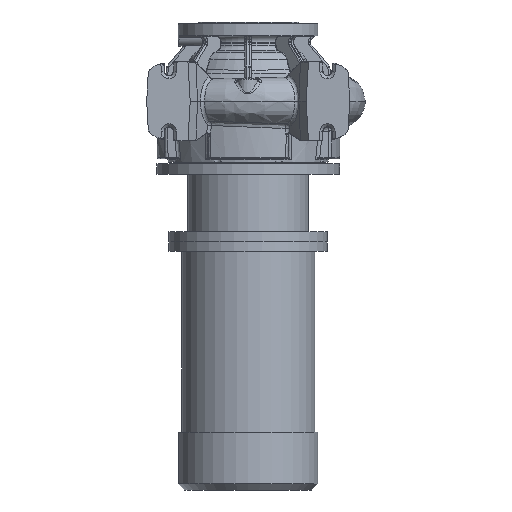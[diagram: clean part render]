
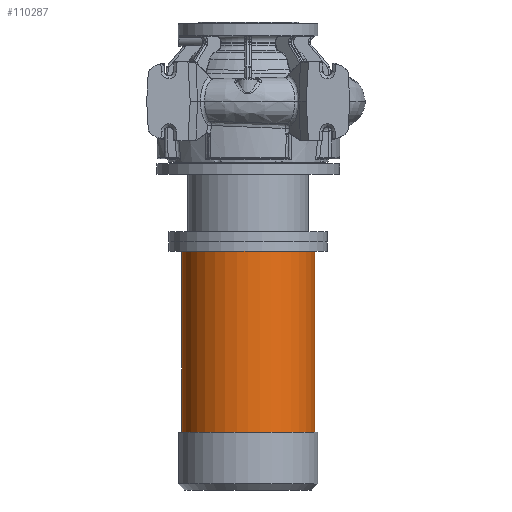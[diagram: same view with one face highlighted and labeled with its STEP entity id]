
A CAD part, front view. The second image highlights one B-rep face of the part: STEP entity #110287.
In plain terms, the highlighted cylindrical face has radius 105 mm (diameter 210 mm), a partial arc.
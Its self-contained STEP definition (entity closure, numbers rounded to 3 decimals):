
#7973 = ORIENTED_EDGE ( 'NONE', *, *, #109300, .F. ) ;
#8858 = CARTESIAN_POINT ( 'NONE',  ( 0., 0., -612.8 ) ) ;
#13412 = CARTESIAN_POINT ( 'NONE',  ( 105., 0., -521.8 ) ) ;
#15878 = CARTESIAN_POINT ( 'NONE',  ( 105., 0., -236.8 ) ) ;
#15988 = DIRECTION ( 'NONE',  ( 0., 0., -1. ) ) ;
#21791 = CARTESIAN_POINT ( 'NONE',  ( -105., 0., -236.8 ) ) ;
#23863 = VERTEX_POINT ( 'NONE', #21791 ) ;
#24425 = ORIENTED_EDGE ( 'NONE', *, *, #24589, .T. ) ;
#24589 = EDGE_CURVE ( 'NONE', #23863, #53376, #32461, .T. ) ;
#30068 = AXIS2_PLACEMENT_3D ( 'NONE', #44868, #104265, #95631 ) ;
#32461 = LINE ( 'NONE', #110362, #56750 ) ;
#33990 = DIRECTION ( 'NONE',  ( 0., 0., -1. ) ) ;
#34284 = VERTEX_POINT ( 'NONE', #15878 ) ;
#37495 = DIRECTION ( 'NONE',  ( -1., 0., 0. ) ) ;
#42496 = ORIENTED_EDGE ( 'NONE', *, *, #45668, .T. ) ;
#44868 = CARTESIAN_POINT ( 'NONE',  ( 0., 0., -521.8 ) ) ;
#45668 = EDGE_CURVE ( 'NONE', #34284, #23863, #79520, .T. ) ;
#45880 = ORIENTED_EDGE ( 'NONE', *, *, #100132, .F. ) ;
#47117 = VECTOR ( 'NONE', #15988, 1000. ) ;
#51991 = AXIS2_PLACEMENT_3D ( 'NONE', #54550, #71770, #37495 ) ;
#53376 = VERTEX_POINT ( 'NONE', #104199 ) ;
#53398 = DIRECTION ( 'NONE',  ( -1., 0., 0. ) ) ;
#54550 = CARTESIAN_POINT ( 'NONE',  ( 0., 0., -236.8 ) ) ;
#56750 = VECTOR ( 'NONE', #33990, 1000. ) ;
#63341 = EDGE_LOOP ( 'NONE', ( #7973, #42496, #24425, #45880 ) ) ;
#71770 = DIRECTION ( 'NONE',  ( 0., 0., -1. ) ) ;
#71952 = VERTEX_POINT ( 'NONE', #13412 ) ;
#79170 = FACE_OUTER_BOUND ( 'NONE', #63341, .T. ) ;
#79520 = CIRCLE ( 'NONE', #51991, 105. ) ;
#81923 = CYLINDRICAL_SURFACE ( 'NONE', #106592, 105. ) ;
#84167 = CARTESIAN_POINT ( 'NONE',  ( 105., 0., -612.8 ) ) ;
#86074 = DIRECTION ( 'NONE',  ( 0., 0., -1. ) ) ;
#92850 = LINE ( 'NONE', #84167, #47117 ) ;
#95631 = DIRECTION ( 'NONE',  ( -1., 0., 0. ) ) ;
#100132 = EDGE_CURVE ( 'NONE', #71952, #53376, #103697, .T. ) ;
#103697 = CIRCLE ( 'NONE', #30068, 105. ) ;
#104199 = CARTESIAN_POINT ( 'NONE',  ( -105., 0., -521.8 ) ) ;
#104265 = DIRECTION ( 'NONE',  ( 0., 0., -1. ) ) ;
#106592 = AXIS2_PLACEMENT_3D ( 'NONE', #8858, #86074, #53398 ) ;
#109300 = EDGE_CURVE ( 'NONE', #34284, #71952, #92850, .T. ) ;
#110287 = ADVANCED_FACE ( 'NONE', ( #79170 ), #81923, .T. ) ;
#110362 = CARTESIAN_POINT ( 'NONE',  ( -105., 0., -612.8 ) ) ;
